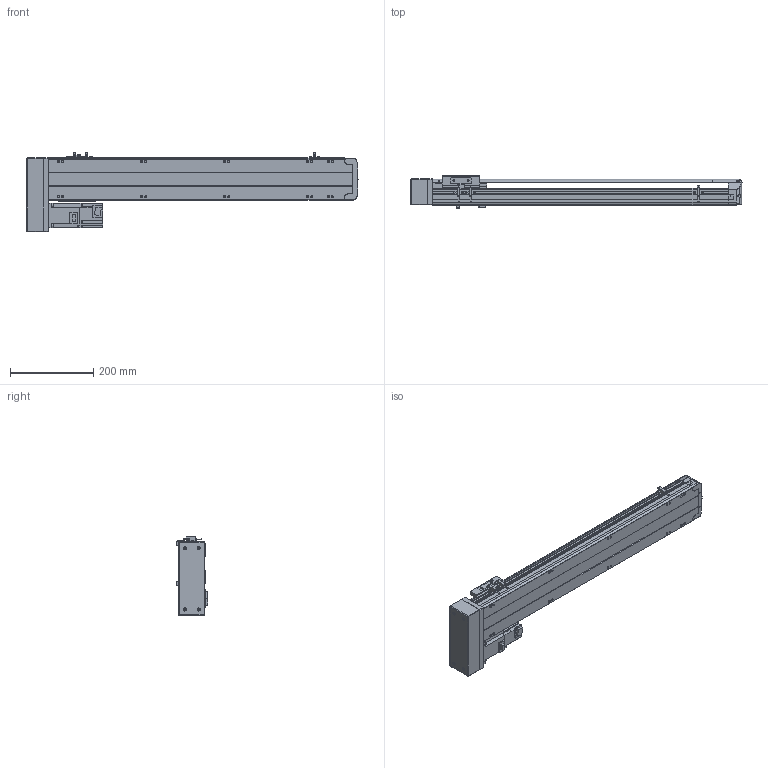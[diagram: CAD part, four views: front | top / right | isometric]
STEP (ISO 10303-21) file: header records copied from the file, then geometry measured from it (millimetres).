
FILE_DESCRIPTION( ( 'STEP AP214' ), '1' );
FILE_NAME( 'x:/temp/worker_27/temp/exporttempdir_6708_99_IXj1T/format_0/PSS120-L10-S550-BR-T40-C1-N(0).stp', '2022-06-06T00:30:32', ( 'License CC BY-ND 4.0' ), ( 'CADENAS' ), ' ', 'PARTsolutions', ' ' );
FILE_SCHEMA( ( 'AUTOMOTIVE_DESIGN { 1 0 10303 214 1 1 1 1 }' ) );
Length unit declared in the file: millimetre
Products named in the file (8): PSS120-L10-S550-BR-T40-C1-N(0); _PSS120-S550-BR-C1-N_body; _PSS120-N_Q; _PSS120-BR-C1-N_sl; _PSS120-N_sensor; _PSS120BR-N_h; _T40-p1; _PSS120-S550-BR-N_S
Assembly tree (9 placements, depth 2):
  PSS120-L10-S550-BR-T40-C1-N(0)
    _PSS120-S550-BR-C1-N_body
    _PSS120-N_Q
    _PSS120-BR-C1-N_sl
    _PSS120-N_sensor  x3
    _PSS120BR-N_h
    _T40-p1
    _PSS120-S550-BR-N_S
Bounding box: 799.35 x 76.8 x 191.2 mm (x, y, z)
Volume: 3358165.3 mm3; surface area: 566824.8 mm2
Topology: 9 solids, 9 shells, 832 faces, 2229 edges, 1474 vertices
Faces by surface type: plane 589, cylinder 221, cone 18, sphere 4
Full cylindrical faces by diameter (mm): 2.8 x3, 4 x4, 4.134 x14, 4.4 x2, 4.5 x4, 4.6 x3, 5 x6, 5.5 x17, 7 x2, 7.4 x4, 8 x4, 8.5 x14, 14 x1, 28 x1, 32 x2, 50 x1
Entity records: 28489 total; most frequent: CARTESIAN_POINT 4383, DIRECTION 3729, ORIENTED_EDGE 3646, EDGE_CURVE 1823, LINE 1313, VECTOR 1313, VERTEX_POINT 1260, AXIS2_PLACEMENT_3D 1208
